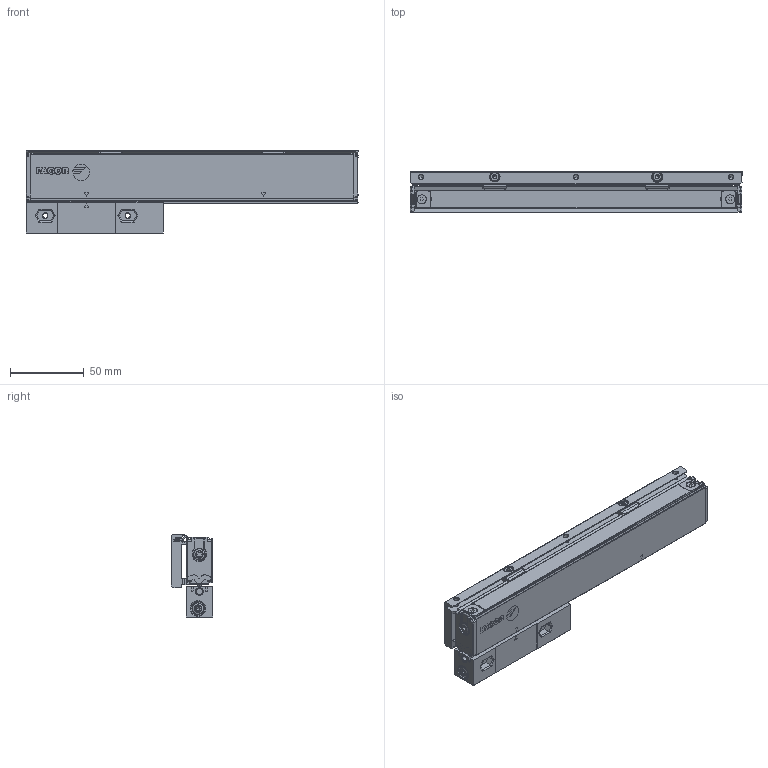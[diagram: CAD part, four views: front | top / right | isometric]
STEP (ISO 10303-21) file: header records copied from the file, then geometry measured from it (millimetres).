
FILE_DESCRIPTION(('Creo Elements/Direct Modeling STEP Export'),'2;1');
FILE_NAME('Regla SV2-120-T-V01A.stp','2022-11-30T 8:29:56',(''),(''),'Creo Elements/Direct Modeling STEP processor for AP214 (Solid Model)','Creo Elements/Direct Modeling 20.4A 18-Oct-2021 (C) Parametric Technology GmbH','');
FILE_SCHEMA(('AUTOMOTIVE_DESIGN { 1 0 10303 214 1 1 1 1 }'));
Length unit declared in the file: millimetre
Products named in the file (4): REGLA_SV2-120-T; SOPORTE_SV3-120; CABEZA_ROSCADA_REGLA_SV2-T; REGLA_SV2-120-T-V01A
Assembly tree (3 placements, depth 2):
  REGLA_SV2-120-T-V01A
    CABEZA_ROSCADA_REGLA_SV2-T
    SOPORTE_SV3-120
    REGLA_SV2-120-T
Bounding box: 225 x 28 x 56.2 mm (x, y, z)
Volume: 202913.4 mm3; surface area: 75431.2 mm2
Topology: 3 solids, 26 shells, 1351 faces, 3598 edges, 2331 vertices
Faces by surface type: plane 585, cylinder 505, cone 170, bspline 74, torus 10, sphere 4, extrusion 3
Entity records: 49029 total; most frequent: CARTESIAN_POINT 11831, ORIENTED_EDGE 7152, DIRECTION 6175, EDGE_CURVE 3576, VERTEX_POINT 2331, AXIS2_PLACEMENT_3D 2094, VECTOR 1987, LINE 1984
